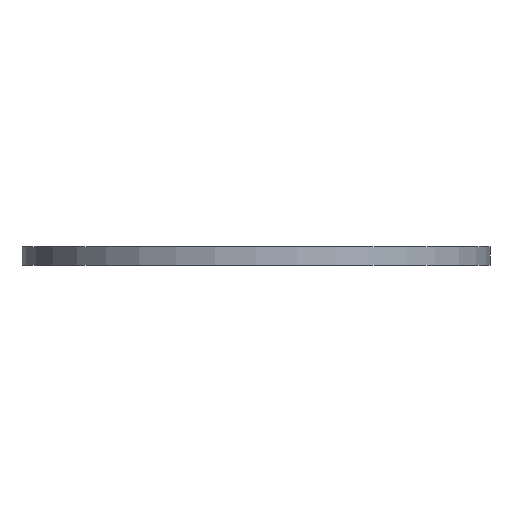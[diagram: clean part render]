
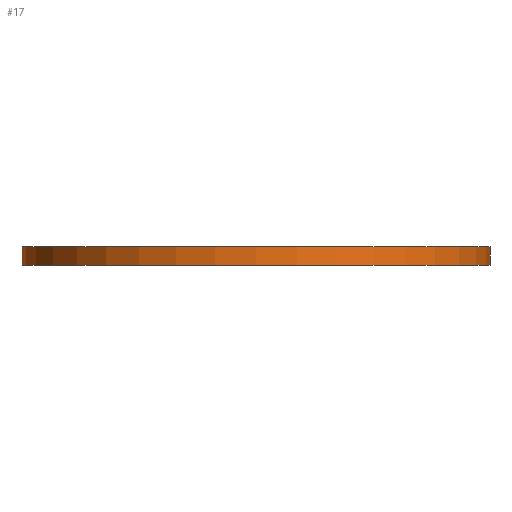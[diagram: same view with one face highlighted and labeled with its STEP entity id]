
A CAD part, front view. The second image highlights one B-rep face of the part: STEP entity #17.
In plain terms, the highlighted cylindrical face has radius 192 mm (diameter 384 mm), a full revolution.
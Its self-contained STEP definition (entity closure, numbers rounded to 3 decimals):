
#17 = ADVANCED_FACE('',(#18),#32,.T.);
#18 = FACE_BOUND('',#19,.F.);
#19 = EDGE_LOOP('',(#20,#50,#77,#78));
#20 = ORIENTED_EDGE('',*,*,#21,.T.);
#21 = EDGE_CURVE('',#22,#24,#26,.T.);
#22 = VERTEX_POINT('',#23);
#23 = CARTESIAN_POINT('',(192.,0.,-7.5));
#24 = VERTEX_POINT('',#25);
#25 = CARTESIAN_POINT('',(192.,0.,7.5));
#26 = SEAM_CURVE('',#27,(#31,#43),.PCURVE_S1.);
#27 = LINE('',#28,#29);
#28 = CARTESIAN_POINT('',(192.,0.,-7.5));
#29 = VECTOR('',#30,1.);
#30 = DIRECTION('',(0.,0.,1.));
#31 = PCURVE('',#32,#37);
#32 = CYLINDRICAL_SURFACE('',#33,192.);
#33 = AXIS2_PLACEMENT_3D('',#34,#35,#36);
#34 = CARTESIAN_POINT('',(0.,0.,-7.5));
#35 = DIRECTION('',(-0.,-0.,-1.));
#36 = DIRECTION('',(1.,0.,0.));
#37 = DEFINITIONAL_REPRESENTATION('',(#38),#42);
#38 = LINE('',#39,#40);
#39 = CARTESIAN_POINT('',(-0.,0.));
#40 = VECTOR('',#41,1.);
#41 = DIRECTION('',(-0.,-1.));
#42 = ( GEOMETRIC_REPRESENTATION_CONTEXT(2) 
PARAMETRIC_REPRESENTATION_CONTEXT() REPRESENTATION_CONTEXT('2D SPACE',''
  ) );
#43 = PCURVE('',#32,#44);
#44 = DEFINITIONAL_REPRESENTATION('',(#45),#49);
#45 = LINE('',#46,#47);
#46 = CARTESIAN_POINT('',(-6.283,0.));
#47 = VECTOR('',#48,1.);
#48 = DIRECTION('',(-0.,-1.));
#49 = ( GEOMETRIC_REPRESENTATION_CONTEXT(2) 
PARAMETRIC_REPRESENTATION_CONTEXT() REPRESENTATION_CONTEXT('2D SPACE',''
  ) );
#50 = ORIENTED_EDGE('',*,*,#51,.T.);
#51 = EDGE_CURVE('',#24,#24,#52,.T.);
#52 = SURFACE_CURVE('',#53,(#58,#65),.PCURVE_S1.);
#53 = CIRCLE('',#54,192.);
#54 = AXIS2_PLACEMENT_3D('',#55,#56,#57);
#55 = CARTESIAN_POINT('',(0.,0.,7.5));
#56 = DIRECTION('',(0.,0.,1.));
#57 = DIRECTION('',(1.,0.,0.));
#58 = PCURVE('',#32,#59);
#59 = DEFINITIONAL_REPRESENTATION('',(#60),#64);
#60 = LINE('',#61,#62);
#61 = CARTESIAN_POINT('',(-0.,-15.));
#62 = VECTOR('',#63,1.);
#63 = DIRECTION('',(-1.,0.));
#64 = ( GEOMETRIC_REPRESENTATION_CONTEXT(2) 
PARAMETRIC_REPRESENTATION_CONTEXT() REPRESENTATION_CONTEXT('2D SPACE',''
  ) );
#65 = PCURVE('',#66,#71);
#66 = PLANE('',#67);
#67 = AXIS2_PLACEMENT_3D('',#68,#69,#70);
#68 = CARTESIAN_POINT('',(0.,0.,7.5));
#69 = DIRECTION('',(0.,0.,1.));
#70 = DIRECTION('',(1.,0.,-0.));
#71 = DEFINITIONAL_REPRESENTATION('',(#72),#76);
#72 = CIRCLE('',#73,192.);
#73 = AXIS2_PLACEMENT_2D('',#74,#75);
#74 = CARTESIAN_POINT('',(0.,0.));
#75 = DIRECTION('',(1.,0.));
#76 = ( GEOMETRIC_REPRESENTATION_CONTEXT(2) 
PARAMETRIC_REPRESENTATION_CONTEXT() REPRESENTATION_CONTEXT('2D SPACE',''
  ) );
#77 = ORIENTED_EDGE('',*,*,#21,.F.);
#78 = ORIENTED_EDGE('',*,*,#79,.F.);
#79 = EDGE_CURVE('',#22,#22,#80,.T.);
#80 = SURFACE_CURVE('',#81,(#86,#93),.PCURVE_S1.);
#81 = CIRCLE('',#82,192.);
#82 = AXIS2_PLACEMENT_3D('',#83,#84,#85);
#83 = CARTESIAN_POINT('',(0.,0.,-7.5));
#84 = DIRECTION('',(0.,0.,1.));
#85 = DIRECTION('',(1.,0.,0.));
#86 = PCURVE('',#32,#87);
#87 = DEFINITIONAL_REPRESENTATION('',(#88),#92);
#88 = LINE('',#89,#90);
#89 = CARTESIAN_POINT('',(-0.,0.));
#90 = VECTOR('',#91,1.);
#91 = DIRECTION('',(-1.,0.));
#92 = ( GEOMETRIC_REPRESENTATION_CONTEXT(2) 
PARAMETRIC_REPRESENTATION_CONTEXT() REPRESENTATION_CONTEXT('2D SPACE',''
  ) );
#93 = PCURVE('',#94,#99);
#94 = PLANE('',#95);
#95 = AXIS2_PLACEMENT_3D('',#96,#97,#98);
#96 = CARTESIAN_POINT('',(0.,0.,-7.5)
  );
#97 = DIRECTION('',(0.,0.,1.));
#98 = DIRECTION('',(1.,0.,-0.));
#99 = DEFINITIONAL_REPRESENTATION('',(#100),#104);
#100 = CIRCLE('',#101,192.);
#101 = AXIS2_PLACEMENT_2D('',#102,#103);
#102 = CARTESIAN_POINT('',(0.,0.));
#103 = DIRECTION('',(1.,0.));
#104 = ( GEOMETRIC_REPRESENTATION_CONTEXT(2) 
PARAMETRIC_REPRESENTATION_CONTEXT() REPRESENTATION_CONTEXT('2D SPACE',''
  ) );
